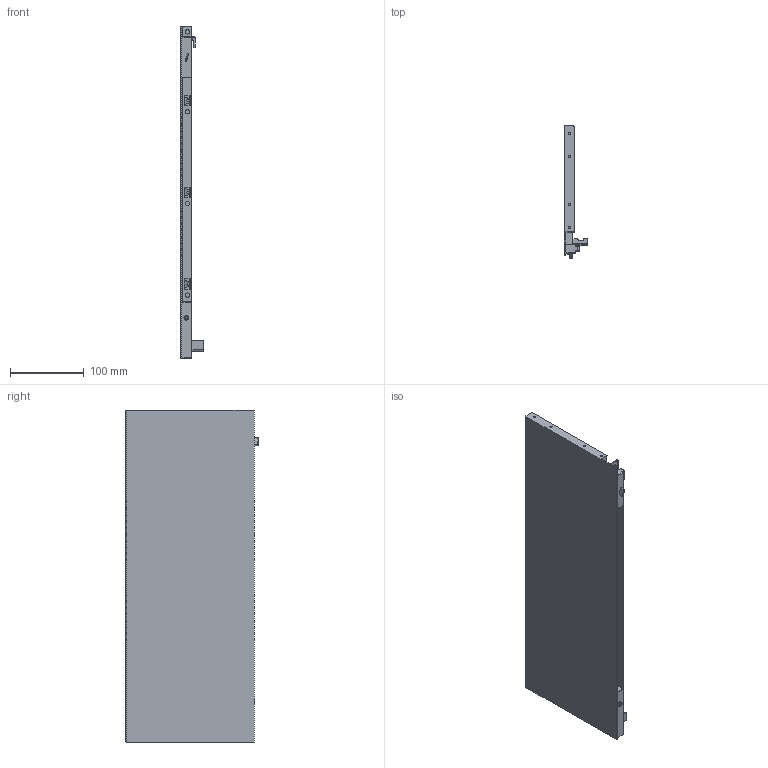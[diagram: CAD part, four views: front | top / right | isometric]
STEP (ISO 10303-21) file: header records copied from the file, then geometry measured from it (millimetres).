
FILE_DESCRIPTION (( 'STEP AP203' ), '1' );
FILE_NAME ('HT134501-L.STEP', '2021-03-16T02:32:14', ( 'Users' ), ( 'Microsoft' ), 'SwSTEP 2.0', 'SolidWorks 2018', '' );
FILE_SCHEMA (( 'CONFIG_CONTROL_DESIGN' ));
Length unit declared in the file: millimetre
Products named in the file (1): HT134501-L
Bounding box: 31.3 x 179 x 449 mm (x, y, z)
Volume: 882811.6 mm3; surface area: 195861.9 mm2
Topology: 1 solids, 8 shells, 408 faces, 1031 edges, 641 vertices
Faces by surface type: plane 201, cylinder 143, torus 29, bspline 23, cone 6, sphere 6
Entity records: 12714 total; most frequent: CARTESIAN_POINT 2978, ORIENTED_EDGE 2044, DIRECTION 1979, EDGE_CURVE 1022, AXIS2_PLACEMENT_3D 674, VERTEX_POINT 641, LINE 631, VECTOR 631
